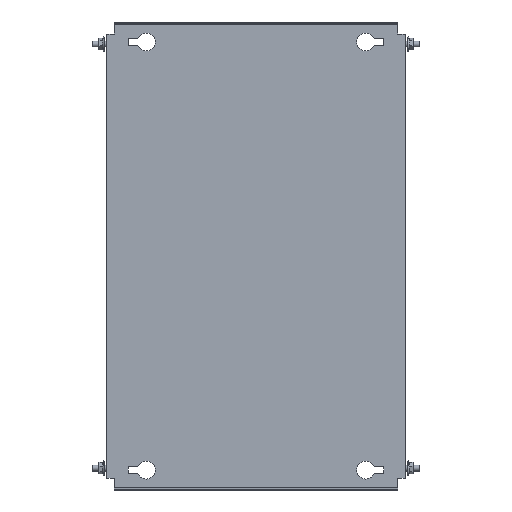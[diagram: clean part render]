
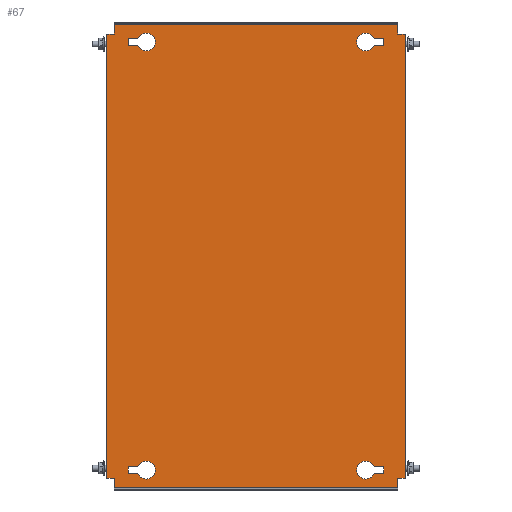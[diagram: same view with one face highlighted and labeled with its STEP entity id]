
A CAD part, top view. The second image highlights one B-rep face of the part: STEP entity #67.
In plain terms, the highlighted planar face has unit normal (0, 0, 1).
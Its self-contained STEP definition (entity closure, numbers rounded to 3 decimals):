
#67 = ADVANCED_FACE('',(#68,#103,#138,#300,#335),#370,.T.);
#68 = FACE_BOUND('',#69,.T.);
#69 = EDGE_LOOP('',(#70,#80,#88,#96));
#70 = ORIENTED_EDGE('',*,*,#71,.T.);
#71 = EDGE_CURVE('',#72,#74,#76,.T.);
#72 = VERTEX_POINT('',#73);
#73 = CARTESIAN_POINT('',(118.393,217.75,2.));
#74 = VERTEX_POINT('',#75);
#75 = CARTESIAN_POINT('',(128.,217.75,2.));
#76 = LINE('',#77,#78);
#77 = CARTESIAN_POINT('',(127.,217.75,2.));
#78 = VECTOR('',#79,1.);
#79 = DIRECTION('',(1.,0.,0.));
#80 = ORIENTED_EDGE('',*,*,#81,.T.);
#81 = EDGE_CURVE('',#74,#82,#84,.T.);
#82 = VERTEX_POINT('',#83);
#83 = CARTESIAN_POINT('',(128.,211.25,2.));
#84 = LINE('',#85,#86);
#85 = CARTESIAN_POINT('',(128.,217.75,2.));
#86 = VECTOR('',#87,1.);
#87 = DIRECTION('',(0.,-1.,0.));
#88 = ORIENTED_EDGE('',*,*,#89,.T.);
#89 = EDGE_CURVE('',#82,#90,#92,.T.);
#90 = VERTEX_POINT('',#91);
#91 = CARTESIAN_POINT('',(118.393,211.25,2.));
#92 = LINE('',#93,#94);
#93 = CARTESIAN_POINT('',(127.,211.25,2.));
#94 = VECTOR('',#95,1.);
#95 = DIRECTION('',(-1.,0.,0.));
#96 = ORIENTED_EDGE('',*,*,#97,.T.);
#97 = EDGE_CURVE('',#90,#72,#98,.T.);
#98 = CIRCLE('',#99,9.);
#99 = AXIS2_PLACEMENT_3D('',#100,#101,#102);
#100 = CARTESIAN_POINT('',(110.,214.5,2.));
#101 = DIRECTION('',(0.,0.,-1.));
#102 = DIRECTION('',(1.,0.,0.));
#103 = FACE_BOUND('',#104,.T.);
#104 = EDGE_LOOP('',(#105,#115,#123,#131));
#105 = ORIENTED_EDGE('',*,*,#106,.T.);
#106 = EDGE_CURVE('',#107,#109,#111,.T.);
#107 = VERTEX_POINT('',#108);
#108 = CARTESIAN_POINT('',(-118.393,-217.75,2.));
#109 = VERTEX_POINT('',#110);
#110 = CARTESIAN_POINT('',(-128.,-217.75,2.));
#111 = LINE('',#112,#113);
#112 = CARTESIAN_POINT('',(-127.,-217.75,2.));
#113 = VECTOR('',#114,1.);
#114 = DIRECTION('',(-1.,0.,0.));
#115 = ORIENTED_EDGE('',*,*,#116,.T.);
#116 = EDGE_CURVE('',#109,#117,#119,.T.);
#117 = VERTEX_POINT('',#118);
#118 = CARTESIAN_POINT('',(-128.,-211.25,2.));
#119 = LINE('',#120,#121);
#120 = CARTESIAN_POINT('',(-128.,-217.75,2.));
#121 = VECTOR('',#122,1.);
#122 = DIRECTION('',(0.,1.,0.));
#123 = ORIENTED_EDGE('',*,*,#124,.T.);
#124 = EDGE_CURVE('',#117,#125,#127,.T.);
#125 = VERTEX_POINT('',#126);
#126 = CARTESIAN_POINT('',(-118.393,-211.25,2.));
#127 = LINE('',#128,#129);
#128 = CARTESIAN_POINT('',(-127.,-211.25,2.));
#129 = VECTOR('',#130,1.);
#130 = DIRECTION('',(1.,-0.,-0.));
#131 = ORIENTED_EDGE('',*,*,#132,.T.);
#132 = EDGE_CURVE('',#125,#107,#133,.T.);
#133 = CIRCLE('',#134,9.);
#134 = AXIS2_PLACEMENT_3D('',#135,#136,#137);
#135 = CARTESIAN_POINT('',(-110.,-214.5,2.));
#136 = DIRECTION('',(0.,0.,-1.));
#137 = DIRECTION('',(-1.,0.,0.));
#138 = FACE_BOUND('',#139,.T.);
#139 = EDGE_LOOP('',(#140,#150,#158,#166,#174,#182,#190,#198,#206,#214,
    #222,#230,#238,#246,#254,#262,#270,#278,#286,#294));
#140 = ORIENTED_EDGE('',*,*,#141,.F.);
#141 = EDGE_CURVE('',#142,#144,#146,.T.);
#142 = VERTEX_POINT('',#143);
#143 = CARTESIAN_POINT('',(-147.4,222.5,2.));
#144 = VERTEX_POINT('',#145);
#145 = CARTESIAN_POINT('',(-142.,222.5,2.));
#146 = LINE('',#147,#148);
#147 = CARTESIAN_POINT('',(-148.,222.5,2.));
#148 = VECTOR('',#149,1.);
#149 = DIRECTION('',(1.,0.,-0.));
#150 = ORIENTED_EDGE('',*,*,#151,.T.);
#151 = EDGE_CURVE('',#142,#152,#154,.T.);
#152 = VERTEX_POINT('',#153);
#153 = CARTESIAN_POINT('',(-150.,222.5,2.));
#154 = LINE('',#155,#156);
#155 = CARTESIAN_POINT('',(-147.4,222.5,2.));
#156 = VECTOR('',#157,1.);
#157 = DIRECTION('',(-1.,0.,0.));
#158 = ORIENTED_EDGE('',*,*,#159,.F.);
#159 = EDGE_CURVE('',#160,#152,#162,.T.);
#160 = VERTEX_POINT('',#161);
#161 = CARTESIAN_POINT('',(-150.,-222.5,2.));
#162 = LINE('',#163,#164);
#163 = CARTESIAN_POINT('',(-150.,-232.5,2.));
#164 = VECTOR('',#165,1.);
#165 = DIRECTION('',(0.,1.,-0.));
#166 = ORIENTED_EDGE('',*,*,#167,.F.);
#167 = EDGE_CURVE('',#168,#160,#170,.T.);
#168 = VERTEX_POINT('',#169);
#169 = CARTESIAN_POINT('',(-147.4,-222.5,2.));
#170 = LINE('',#171,#172);
#171 = CARTESIAN_POINT('',(-142.,-222.5,2.));
#172 = VECTOR('',#173,1.);
#173 = DIRECTION('',(-1.,-0.,-0.));
#174 = ORIENTED_EDGE('',*,*,#175,.T.);
#175 = EDGE_CURVE('',#168,#176,#178,.T.);
#176 = VERTEX_POINT('',#177);
#177 = CARTESIAN_POINT('',(-142.,-222.5,2.));
#178 = LINE('',#179,#180);
#179 = CARTESIAN_POINT('',(-148.,-222.5,2.));
#180 = VECTOR('',#181,1.);
#181 = DIRECTION('',(1.,0.,-0.));
#182 = ORIENTED_EDGE('',*,*,#183,.T.);
#183 = EDGE_CURVE('',#176,#184,#186,.T.);
#184 = VERTEX_POINT('',#185);
#185 = CARTESIAN_POINT('',(-142.,-231.9,2.));
#186 = LINE('',#187,#188);
#187 = CARTESIAN_POINT('',(-142.,232.5,2.));
#188 = VECTOR('',#189,1.);
#189 = DIRECTION('',(0.,-1.,0.));
#190 = ORIENTED_EDGE('',*,*,#191,.T.);
#191 = EDGE_CURVE('',#184,#192,#194,.T.);
#192 = VERTEX_POINT('',#193);
#193 = CARTESIAN_POINT('',(-142.,-232.5,2.));
#194 = LINE('',#195,#196);
#195 = CARTESIAN_POINT('',(-142.,-231.9,2.));
#196 = VECTOR('',#197,1.);
#197 = DIRECTION('',(-0.,-1.,-0.));
#198 = ORIENTED_EDGE('',*,*,#199,.T.);
#199 = EDGE_CURVE('',#192,#200,#202,.T.);
#200 = VERTEX_POINT('',#201);
#201 = CARTESIAN_POINT('',(142.,-232.5,2.));
#202 = LINE('',#203,#204);
#203 = CARTESIAN_POINT('',(142.,-232.5,2.));
#204 = VECTOR('',#205,1.);
#205 = DIRECTION('',(1.,0.,0.));
#206 = ORIENTED_EDGE('',*,*,#207,.F.);
#207 = EDGE_CURVE('',#208,#200,#210,.T.);
#208 = VERTEX_POINT('',#209);
#209 = CARTESIAN_POINT('',(142.,-231.9,2.));
#210 = LINE('',#211,#212);
#211 = CARTESIAN_POINT('',(142.,-232.5,2.));
#212 = VECTOR('',#213,1.);
#213 = DIRECTION('',(0.,-1.,0.));
#214 = ORIENTED_EDGE('',*,*,#215,.T.);
#215 = EDGE_CURVE('',#208,#216,#218,.T.);
#216 = VERTEX_POINT('',#217);
#217 = CARTESIAN_POINT('',(142.,-222.5,2.));
#218 = LINE('',#219,#220);
#219 = CARTESIAN_POINT('',(142.,232.5,2.));
#220 = VECTOR('',#221,1.);
#221 = DIRECTION('',(0.,1.,-0.));
#222 = ORIENTED_EDGE('',*,*,#223,.F.);
#223 = EDGE_CURVE('',#224,#216,#226,.T.);
#224 = VERTEX_POINT('',#225);
#225 = CARTESIAN_POINT('',(147.4,-222.5,2.));
#226 = LINE('',#227,#228);
#227 = CARTESIAN_POINT('',(148.,-222.5,2.));
#228 = VECTOR('',#229,1.);
#229 = DIRECTION('',(-1.,0.,-0.));
#230 = ORIENTED_EDGE('',*,*,#231,.T.);
#231 = EDGE_CURVE('',#224,#232,#234,.T.);
#232 = VERTEX_POINT('',#233);
#233 = CARTESIAN_POINT('',(150.,-222.5,2.));
#234 = LINE('',#235,#236);
#235 = CARTESIAN_POINT('',(147.4,-222.5,2.));
#236 = VECTOR('',#237,1.);
#237 = DIRECTION('',(1.,-0.,0.));
#238 = ORIENTED_EDGE('',*,*,#239,.F.);
#239 = EDGE_CURVE('',#240,#232,#242,.T.);
#240 = VERTEX_POINT('',#241);
#241 = CARTESIAN_POINT('',(150.,222.5,2.));
#242 = LINE('',#243,#244);
#243 = CARTESIAN_POINT('',(150.,-232.5,2.));
#244 = VECTOR('',#245,1.);
#245 = DIRECTION('',(0.,-1.,-0.));
#246 = ORIENTED_EDGE('',*,*,#247,.F.);
#247 = EDGE_CURVE('',#248,#240,#250,.T.);
#248 = VERTEX_POINT('',#249);
#249 = CARTESIAN_POINT('',(147.4,222.5,2.));
#250 = LINE('',#251,#252);
#251 = CARTESIAN_POINT('',(-142.,222.5,2.));
#252 = VECTOR('',#253,1.);
#253 = DIRECTION('',(1.,-0.,0.));
#254 = ORIENTED_EDGE('',*,*,#255,.T.);
#255 = EDGE_CURVE('',#248,#256,#258,.T.);
#256 = VERTEX_POINT('',#257);
#257 = CARTESIAN_POINT('',(142.,222.5,2.));
#258 = LINE('',#259,#260);
#259 = CARTESIAN_POINT('',(148.,222.5,2.));
#260 = VECTOR('',#261,1.);
#261 = DIRECTION('',(-1.,0.,-0.));
#262 = ORIENTED_EDGE('',*,*,#263,.T.);
#263 = EDGE_CURVE('',#256,#264,#266,.T.);
#264 = VERTEX_POINT('',#265);
#265 = CARTESIAN_POINT('',(142.,231.9,2.));
#266 = LINE('',#267,#268);
#267 = CARTESIAN_POINT('',(142.,232.5,2.));
#268 = VECTOR('',#269,1.);
#269 = DIRECTION('',(0.,1.,-0.));
#270 = ORIENTED_EDGE('',*,*,#271,.T.);
#271 = EDGE_CURVE('',#264,#272,#274,.T.);
#272 = VERTEX_POINT('',#273);
#273 = CARTESIAN_POINT('',(142.,232.5,2.));
#274 = LINE('',#275,#276);
#275 = CARTESIAN_POINT('',(142.,231.9,2.));
#276 = VECTOR('',#277,1.);
#277 = DIRECTION('',(-0.,1.,-0.));
#278 = ORIENTED_EDGE('',*,*,#279,.T.);
#279 = EDGE_CURVE('',#272,#280,#282,.T.);
#280 = VERTEX_POINT('',#281);
#281 = CARTESIAN_POINT('',(-142.,232.5,2.));
#282 = LINE('',#283,#284);
#283 = CARTESIAN_POINT('',(-142.,232.5,2.));
#284 = VECTOR('',#285,1.);
#285 = DIRECTION('',(-1.,0.,0.));
#286 = ORIENTED_EDGE('',*,*,#287,.F.);
#287 = EDGE_CURVE('',#288,#280,#290,.T.);
#288 = VERTEX_POINT('',#289);
#289 = CARTESIAN_POINT('',(-142.,231.9,2.));
#290 = LINE('',#291,#292);
#291 = CARTESIAN_POINT('',(-142.,-232.5,2.));
#292 = VECTOR('',#293,1.);
#293 = DIRECTION('',(0.,1.,-0.));
#294 = ORIENTED_EDGE('',*,*,#295,.T.);
#295 = EDGE_CURVE('',#288,#144,#296,.T.);
#296 = LINE('',#297,#298);
#297 = CARTESIAN_POINT('',(-142.,232.5,2.));
#298 = VECTOR('',#299,1.);
#299 = DIRECTION('',(0.,-1.,0.));
#300 = FACE_BOUND('',#301,.T.);
#301 = EDGE_LOOP('',(#302,#312,#320,#328));
#302 = ORIENTED_EDGE('',*,*,#303,.F.);
#303 = EDGE_CURVE('',#304,#306,#308,.T.);
#304 = VERTEX_POINT('',#305);
#305 = CARTESIAN_POINT('',(128.,-211.25,2.));
#306 = VERTEX_POINT('',#307);
#307 = CARTESIAN_POINT('',(118.393,-211.25,2.));
#308 = LINE('',#309,#310);
#309 = CARTESIAN_POINT('',(118.393,-211.25,2.));
#310 = VECTOR('',#311,1.);
#311 = DIRECTION('',(-1.,0.,0.));
#312 = ORIENTED_EDGE('',*,*,#313,.F.);
#313 = EDGE_CURVE('',#314,#304,#316,.T.);
#314 = VERTEX_POINT('',#315);
#315 = CARTESIAN_POINT('',(128.,-217.75,2.));
#316 = LINE('',#317,#318);
#317 = CARTESIAN_POINT('',(128.,-211.25,2.));
#318 = VECTOR('',#319,1.);
#319 = DIRECTION('',(0.,1.,0.));
#320 = ORIENTED_EDGE('',*,*,#321,.F.);
#321 = EDGE_CURVE('',#322,#314,#324,.T.);
#322 = VERTEX_POINT('',#323);
#323 = CARTESIAN_POINT('',(118.393,-217.75,2.));
#324 = LINE('',#325,#326);
#325 = CARTESIAN_POINT('',(127.,-217.75,2.));
#326 = VECTOR('',#327,1.);
#327 = DIRECTION('',(1.,0.,0.));
#328 = ORIENTED_EDGE('',*,*,#329,.F.);
#329 = EDGE_CURVE('',#306,#322,#330,.T.);
#330 = CIRCLE('',#331,9.);
#331 = AXIS2_PLACEMENT_3D('',#332,#333,#334);
#332 = CARTESIAN_POINT('',(110.,-214.5,2.));
#333 = DIRECTION('',(0.,-0.,1.));
#334 = DIRECTION('',(1.,0.,0.));
#335 = FACE_BOUND('',#336,.T.);
#336 = EDGE_LOOP('',(#337,#347,#355,#363));
#337 = ORIENTED_EDGE('',*,*,#338,.F.);
#338 = EDGE_CURVE('',#339,#341,#343,.T.);
#339 = VERTEX_POINT('',#340);
#340 = CARTESIAN_POINT('',(-128.,211.25,2.));
#341 = VERTEX_POINT('',#342);
#342 = CARTESIAN_POINT('',(-118.393,211.25,2.));
#343 = LINE('',#344,#345);
#344 = CARTESIAN_POINT('',(-118.393,211.25,2.));
#345 = VECTOR('',#346,1.);
#346 = DIRECTION('',(1.,0.,0.));
#347 = ORIENTED_EDGE('',*,*,#348,.F.);
#348 = EDGE_CURVE('',#349,#339,#351,.T.);
#349 = VERTEX_POINT('',#350);
#350 = CARTESIAN_POINT('',(-128.,217.75,2.));
#351 = LINE('',#352,#353);
#352 = CARTESIAN_POINT('',(-128.,211.25,2.));
#353 = VECTOR('',#354,1.);
#354 = DIRECTION('',(0.,-1.,0.));
#355 = ORIENTED_EDGE('',*,*,#356,.F.);
#356 = EDGE_CURVE('',#357,#349,#359,.T.);
#357 = VERTEX_POINT('',#358);
#358 = CARTESIAN_POINT('',(-118.393,217.75,2.));
#359 = LINE('',#360,#361);
#360 = CARTESIAN_POINT('',(-127.,217.75,2.));
#361 = VECTOR('',#362,1.);
#362 = DIRECTION('',(-1.,0.,0.));
#363 = ORIENTED_EDGE('',*,*,#364,.F.);
#364 = EDGE_CURVE('',#341,#357,#365,.T.);
#365 = CIRCLE('',#366,9.);
#366 = AXIS2_PLACEMENT_3D('',#367,#368,#369);
#367 = CARTESIAN_POINT('',(-110.,214.5,2.));
#368 = DIRECTION('',(0.,-0.,1.));
#369 = DIRECTION('',(-1.,0.,0.));
#370 = PLANE('',#371);
#371 = AXIS2_PLACEMENT_3D('',#372,#373,#374);
#372 = CARTESIAN_POINT('',(-142.,-232.5,2.));
#373 = DIRECTION('',(-0.,0.,1.));
#374 = DIRECTION('',(1.,0.,0.));
